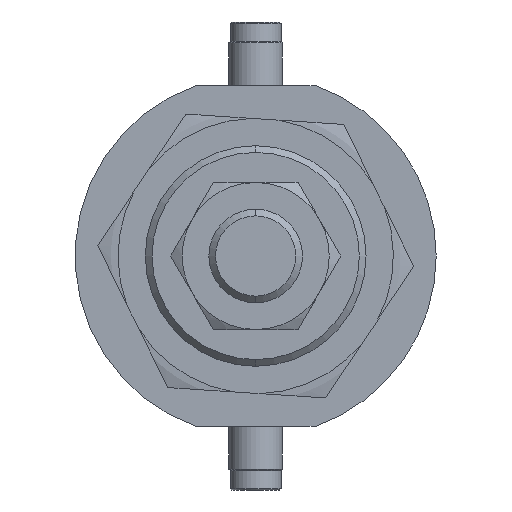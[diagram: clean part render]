
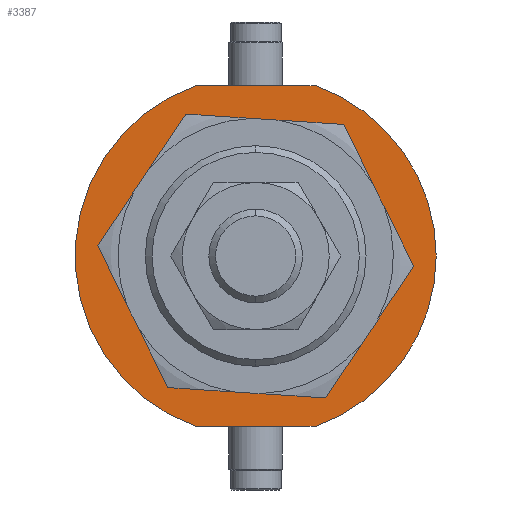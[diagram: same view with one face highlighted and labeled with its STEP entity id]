
A CAD part, left-side view. The second image highlights one B-rep face of the part: STEP entity #3387.
In plain terms, the highlighted planar face has unit normal (-1, 0, 0) as drawn and (0, 1, 0) by its records, which use the part's own axes.
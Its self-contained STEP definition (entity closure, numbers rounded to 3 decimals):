
#161 = EDGE_LOOP ( 'NONE', ( #896, #1949 ) ) ;
#216 = DIRECTION ( 'NONE',  ( 0., 1., 0. ) ) ;
#347 = CIRCLE ( 'NONE', #870, 16.5 ) ;
#357 = CARTESIAN_POINT ( 'NONE',  ( 0., 4.5, -16.5 ) ) ;
#478 = VERTEX_POINT ( 'NONE', #2946 ) ;
#576 = DIRECTION ( 'NONE',  ( 0., 0., 1. ) ) ;
#590 = EDGE_CURVE ( 'NONE', #3835, #2132, #347, .T. ) ;
#653 = CARTESIAN_POINT ( 'NONE',  ( 0., 4.5, 0. ) ) ;
#659 = CIRCLE ( 'NONE', #4185, 27. ) ;
#747 = DIRECTION ( 'NONE',  ( 0., 0., 1. ) ) ;
#870 = AXIS2_PLACEMENT_3D ( 'NONE', #3020, #2737, #1440 ) ;
#896 = ORIENTED_EDGE ( 'NONE', *, *, #3838, .F. ) ;
#994 = FACE_BOUND ( 'NONE', #161, .T. ) ;
#1013 = CARTESIAN_POINT ( 'NONE',  ( 0., 4.5, 0. ) ) ;
#1250 = VERTEX_POINT ( 'NONE', #1475 ) ;
#1253 = CARTESIAN_POINT ( 'NONE',  ( 25.5, 4.5, -8.874 ) ) ;
#1310 = VECTOR ( 'NONE', #747, 1000. ) ;
#1314 = DIRECTION ( 'NONE',  ( 0., 0., 1. ) ) ;
#1359 = EDGE_CURVE ( 'NONE', #4133, #3759, #3260, .T. ) ;
#1409 = PLANE ( 'NONE',  #2073 ) ;
#1440 = DIRECTION ( 'NONE',  ( 0., 0., 1. ) ) ;
#1475 = CARTESIAN_POINT ( 'NONE',  ( -25.5, 4.5, 8.874 ) ) ;
#1635 = ORIENTED_EDGE ( 'NONE', *, *, #2922, .T. ) ;
#1741 = DIRECTION ( 'NONE',  ( 0., 0., -1. ) ) ;
#1783 = ORIENTED_EDGE ( 'NONE', *, *, #2209, .T. ) ;
#1811 = DIRECTION ( 'NONE',  ( 0., 1., 0. ) ) ;
#1949 = ORIENTED_EDGE ( 'NONE', *, *, #590, .F. ) ;
#2073 = AXIS2_PLACEMENT_3D ( 'NONE', #2079, #1811, #576 ) ;
#2079 = CARTESIAN_POINT ( 'NONE',  ( 0., 4.5, 0. ) ) ;
#2132 = VERTEX_POINT ( 'NONE', #2587 ) ;
#2209 = EDGE_CURVE ( 'NONE', #3759, #2284, #4043, .T. ) ;
#2284 = VERTEX_POINT ( 'NONE', #3293 ) ;
#2298 = DIRECTION ( 'NONE',  ( 0., 0., 1. ) ) ;
#2300 = CARTESIAN_POINT ( 'NONE',  ( 0., 4.5, 0. ) ) ;
#2378 = CARTESIAN_POINT ( 'NONE',  ( 25.5, 4.5, 8.874 ) ) ;
#2441 = DIRECTION ( 'NONE',  ( 0., 1., 0. ) ) ;
#2447 = EDGE_CURVE ( 'NONE', #2284, #1250, #2613, .T. ) ;
#2461 = DIRECTION ( 'NONE',  ( 0., 1., 0. ) ) ;
#2486 = ORIENTED_EDGE ( 'NONE', *, *, #2760, .T. ) ;
#2587 = CARTESIAN_POINT ( 'NONE',  ( 0., 4.5, 16.5 ) ) ;
#2613 = LINE ( 'NONE', #3108, #1310 ) ;
#2663 = DIRECTION ( 'NONE',  ( 0., 0., 1. ) ) ;
#2737 = DIRECTION ( 'NONE',  ( 0., 1., 0. ) ) ;
#2760 = EDGE_CURVE ( 'NONE', #478, #4133, #659, .T. ) ;
#2856 = DIRECTION ( 'NONE',  ( 0., 0., 1. ) ) ;
#2919 = CARTESIAN_POINT ( 'NONE',  ( 0., 4.5, 0. ) ) ;
#2922 = EDGE_CURVE ( 'NONE', #1250, #478, #3013, .T. ) ;
#2933 = AXIS2_PLACEMENT_3D ( 'NONE', #653, #216, #2663 ) ;
#2946 = CARTESIAN_POINT ( 'NONE',  ( 0., 4.5, 27. ) ) ;
#3013 = CIRCLE ( 'NONE', #4062, 27. ) ;
#3020 = CARTESIAN_POINT ( 'NONE',  ( 0., 4.5, 0. ) ) ;
#3080 = ORIENTED_EDGE ( 'NONE', *, *, #2447, .T. ) ;
#3108 = CARTESIAN_POINT ( 'NONE',  ( -25.5, 4.5, -8.874 ) ) ;
#3110 = ORIENTED_EDGE ( 'NONE', *, *, #1359, .T. ) ;
#3260 = LINE ( 'NONE', #3844, #3359 ) ;
#3293 = CARTESIAN_POINT ( 'NONE',  ( -25.5, 4.5, -8.874 ) ) ;
#3359 = VECTOR ( 'NONE', #1741, 1000. ) ;
#3368 = CIRCLE ( 'NONE', #3851, 16.5 ) ;
#3387 = ADVANCED_FACE ( 'NONE', ( #994, #3511 ), #1409, .T. ) ;
#3511 = FACE_OUTER_BOUND ( 'NONE', #4130, .T. ) ;
#3759 = VERTEX_POINT ( 'NONE', #1253 ) ;
#3835 = VERTEX_POINT ( 'NONE', #357 ) ;
#3838 = EDGE_CURVE ( 'NONE', #2132, #3835, #3368, .T. ) ;
#3844 = CARTESIAN_POINT ( 'NONE',  ( 25.5, 4.5, -8.874 ) ) ;
#3851 = AXIS2_PLACEMENT_3D ( 'NONE', #2300, #4168, #2298 ) ;
#4043 = CIRCLE ( 'NONE', #2933, 27. ) ;
#4062 = AXIS2_PLACEMENT_3D ( 'NONE', #1013, #2461, #1314 ) ;
#4130 = EDGE_LOOP ( 'NONE', ( #1783, #3080, #1635, #2486, #3110 ) ) ;
#4133 = VERTEX_POINT ( 'NONE', #2378 ) ;
#4168 = DIRECTION ( 'NONE',  ( 0., 1., 0. ) ) ;
#4185 = AXIS2_PLACEMENT_3D ( 'NONE', #2919, #2441, #2856 ) ;
